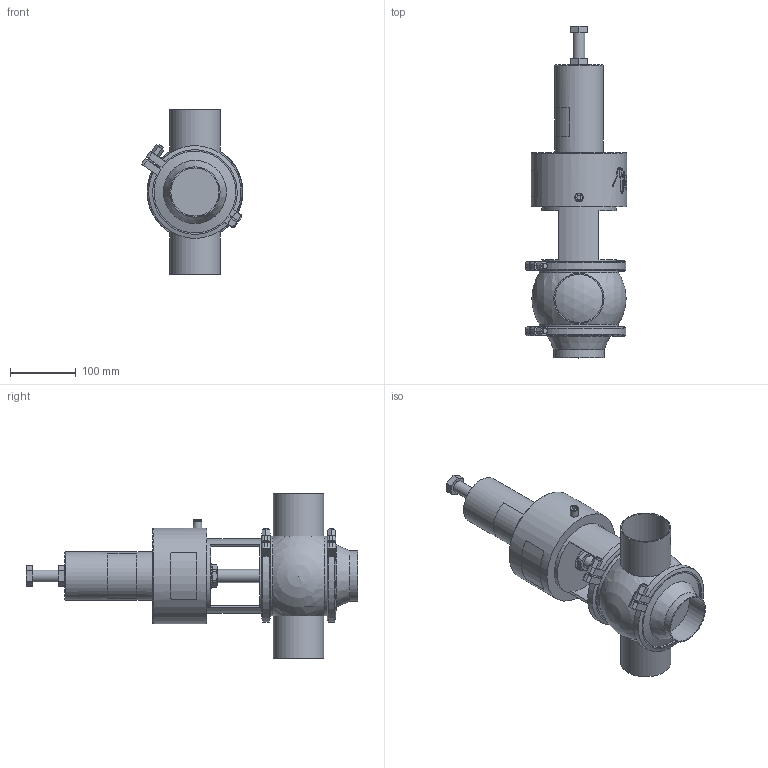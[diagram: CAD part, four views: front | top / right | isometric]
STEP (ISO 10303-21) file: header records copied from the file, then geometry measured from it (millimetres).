
FILE_DESCRIPTION (( 'STEP AP214' ), '1' );
FILE_NAME ('INNOVA J T W OD 3_10.245.16.0002.STEP', '2024-08-08T08:04:17', ( '' ), ( '' ), 'SwSTEP 2.0', 'SolidWorks 2023', '' );
FILE_SCHEMA (( 'AUTOMOTIVE_DESIGN' ));
Length unit declared in the file: millimetre
Products named in the file (6): 10.247.15.0001_OD 3"; 10.240.15.0007_OD 3"; 10.240.15.0010_DN 080; INNOVA J T W OD 3_10.245.16.0002; 10.240.15.0001_DN 080; 10.245.15.0001_T3 SE NC_DN 065
Assembly tree (6 placements, depth 2):
  INNOVA J T W OD 3_10.245.16.0002
    10.240.15.0007_OD 3"
    10.247.15.0001_OD 3"
    10.240.15.0010_DN 080
    10.245.15.0001_T3 SE NC_DN 065
    10.240.15.0001_DN 080  x2
Bounding box: 153.93 x 503 x 250 mm (x, y, z)
Volume: 3803589.6 mm3; surface area: 404874.9 mm2
Topology: 6 solids, 6 shells, 381 faces, 1008 edges, 664 vertices
Faces by surface type: plane 191, cylinder 82, bspline 78, cone 26, sphere 3, torus 1
Full cylindrical faces by diameter (mm): 6.15 x1, 8 x4, 10.5 x1, 12.5 x2, 18 x1, 20 x1, 36.5 x1, 72.9 x3, 74 x1, 76.2 x3, 113 x1, 120 x2, 132 x4, 145 x1
Entity records: 20030 total; most frequent: CARTESIAN_POINT 11061, ORIENTED_EDGE 1582, DIRECTION 1195, EDGE_CURVE 791, VERTEX_POINT 544, AXIS2_PLACEMENT_3D 445, EDGE_LOOP 393, FACE_OUTER_BOUND 349
